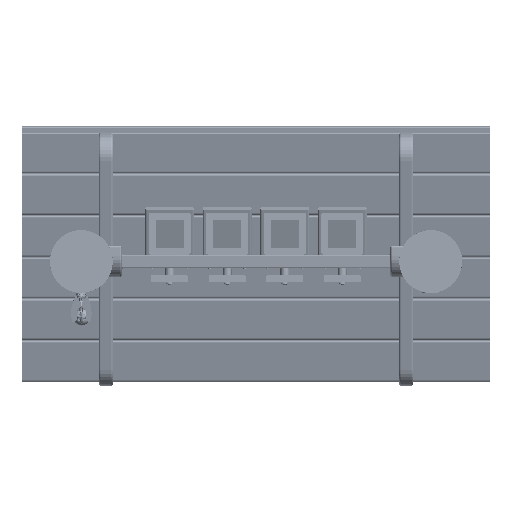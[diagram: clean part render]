
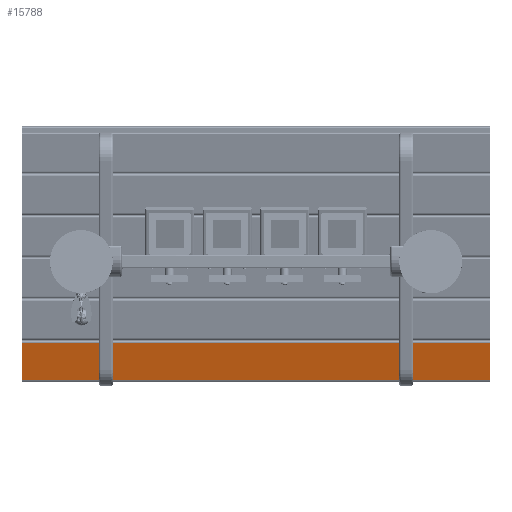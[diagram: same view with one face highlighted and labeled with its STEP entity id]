
A CAD part, front view. The second image highlights one B-rep face of the part: STEP entity #15788.
In plain terms, the highlighted planar face has unit normal (0, -0.966, -0.259) as drawn and (0, -1, 0) by its records, which use the part's own axes.
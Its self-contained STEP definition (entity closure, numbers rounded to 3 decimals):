
#11835 = DIRECTION ( 'NONE',  ( 0., 0., -1. ) ) ;
#13457 = CARTESIAN_POINT ( 'NONE',  ( 670., 0., 54.996 ) ) ;
#15788 = ADVANCED_FACE ( 'NONE', ( #41029 ), #45179, .F. ) ;
#35873 = VERTEX_POINT ( 'NONE', #13457 ) ;
#40047 = EDGE_LOOP ( 'NONE', ( #135976, #73808, #159875, #174405 ) ) ;
#41029 = FACE_OUTER_BOUND ( 'NONE', #40047, .T. ) ;
#43103 = EDGE_CURVE ( 'NONE', #35873, #146012, #132165, .T. ) ;
#45179 = PLANE ( 'NONE',  #207893 ) ;
#73808 = ORIENTED_EDGE ( 'NONE', *, *, #119738, .F. ) ;
#88123 = DIRECTION ( 'NONE',  ( -1., 0., 0. ) ) ;
#93583 = LINE ( 'NONE', #159161, #204045 ) ;
#104777 = LINE ( 'NONE', #170389, #122680 ) ;
#106608 = CARTESIAN_POINT ( 'NONE',  ( 670., 0., 54.996 ) ) ;
#119738 = EDGE_CURVE ( 'NONE', #146012, #124351, #169833, .T. ) ;
#122680 = VECTOR ( 'NONE', #207562, 1000. ) ;
#124351 = VERTEX_POINT ( 'NONE', #147211 ) ;
#131101 = DIRECTION ( 'NONE',  ( 0., 0., -1. ) ) ;
#131186 = CARTESIAN_POINT ( 'NONE',  ( 670., 0., -54.996 ) ) ;
#132165 = LINE ( 'NONE', #147281, #153036 ) ;
#135976 = ORIENTED_EDGE ( 'NONE', *, *, #184764, .T. ) ;
#140790 = EDGE_CURVE ( 'NONE', #35873, #158709, #104777, .T. ) ;
#146012 = VERTEX_POINT ( 'NONE', #131186 ) ;
#147211 = CARTESIAN_POINT ( 'NONE',  ( -670., 0., -54.996 ) ) ;
#147281 = CARTESIAN_POINT ( 'NONE',  ( 670., 0., 54.996 ) ) ;
#153036 = VECTOR ( 'NONE', #131101, 1000. ) ;
#158650 = CARTESIAN_POINT ( 'NONE',  ( -670., 0., 54.996 ) ) ;
#158709 = VERTEX_POINT ( 'NONE', #158650 ) ;
#159161 = CARTESIAN_POINT ( 'NONE',  ( -670., 0., 54.996 ) ) ;
#159875 = ORIENTED_EDGE ( 'NONE', *, *, #43103, .F. ) ;
#169833 = LINE ( 'NONE', #188034, #201623 ) ;
#170389 = CARTESIAN_POINT ( 'NONE',  ( 670., 0., 54.996 ) ) ;
#174405 = ORIENTED_EDGE ( 'NONE', *, *, #140790, .T. ) ;
#175316 = DIRECTION ( 'NONE',  ( 0., 0., 1. ) ) ;
#184764 = EDGE_CURVE ( 'NONE', #158709, #124351, #93583, .T. ) ;
#188034 = CARTESIAN_POINT ( 'NONE',  ( 670., 0., -54.996 ) ) ;
#201623 = VECTOR ( 'NONE', #88123, 1000. ) ;
#204045 = VECTOR ( 'NONE', #11835, 1000. ) ;
#207530 = DIRECTION ( 'NONE',  ( 0., 1., 0. ) ) ;
#207562 = DIRECTION ( 'NONE',  ( -1., 0., 0. ) ) ;
#207893 = AXIS2_PLACEMENT_3D ( 'NONE', #106608, #207530, #175316 ) ;
